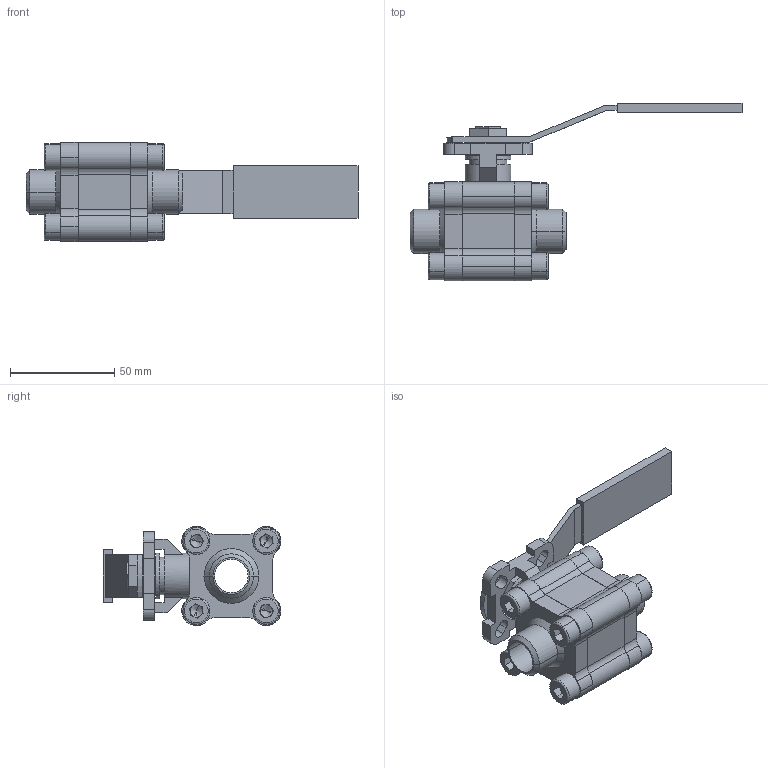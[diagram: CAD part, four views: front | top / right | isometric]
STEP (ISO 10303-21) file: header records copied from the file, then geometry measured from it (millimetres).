
FILE_DESCRIPTION (( 'STEP AP214' ), '1' );
FILE_NAME ('S33D DN15 BW HB.step', '2010-10-27T14:40:32', ( '' ), ( '' ), 'SwSTEP 2.0', 'SolidWorks 2010', '' );
FILE_SCHEMA (( 'AUTOMOTIVE_DESIGN' ));
Length unit declared in the file: millimetre
Products named in the file (5): S33D KK DN15 PN100; DIN 912 M8 x 20 --- 20N_DIN 912 M8 x 20 --- 20N; S33D Flens Buttweld DN15; Hendel S33D DN15; S33D DN15 BW HB
Assembly tree (12 placements, depth 2):
  S33D DN15 BW HB
    DIN 912 M8 x 20 --- 20N_DIN 912 M8 x 20 --- 20N  x8
    S33D KK DN15 PN100
    Hendel S33D DN15
    S33D Flens Buttweld DN15  x2
Bounding box: 159.46 x 85.39 x 47.59 mm (x, y, z)
Volume: 107216.3 mm3; surface area: 49467.5 mm2
Topology: 12 solids, 12 shells, 450 faces, 1100 edges, 680 vertices
Faces by surface type: plane 239, cylinder 139, cone 40, torus 32
Entity records: 7389 total; most frequent: CARTESIAN_POINT 1278, DIRECTION 1274, ORIENTED_EDGE 1188, EDGE_CURVE 594, AXIS2_PLACEMENT_3D 449, VERTEX_POINT 385, LINE 376, VECTOR 376
